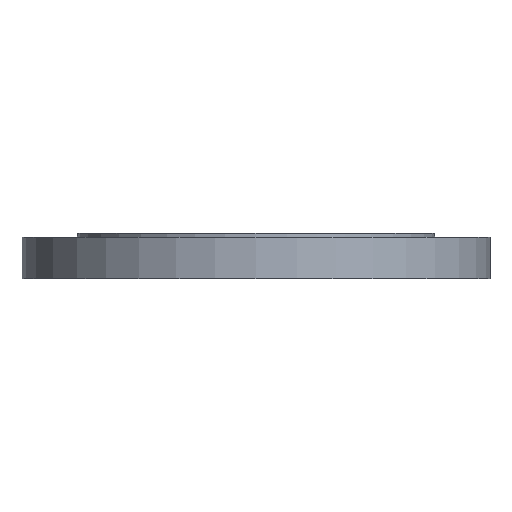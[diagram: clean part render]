
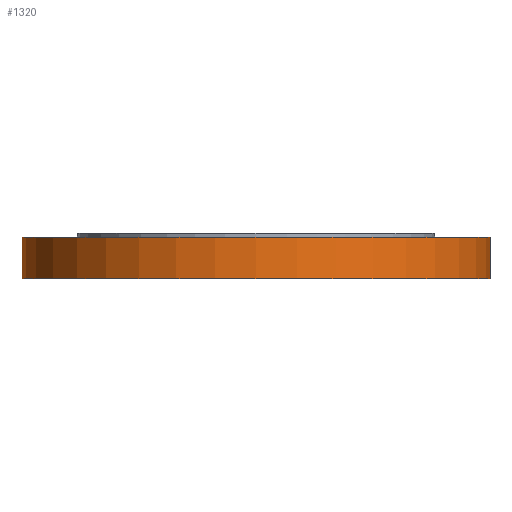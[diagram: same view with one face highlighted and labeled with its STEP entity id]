
A CAD part, front view. The second image highlights one B-rep face of the part: STEP entity #1320.
In plain terms, the highlighted cylindrical face has radius 342.5 mm (diameter 685 mm), a partial arc.
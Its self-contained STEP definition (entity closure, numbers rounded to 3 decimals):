
#18 = EDGE_CURVE ( 'NONE', #1235, #1653, #1180, .T. ) ;
#62 = CARTESIAN_POINT ( 'NONE',  ( 342.5, 0., -66. ) ) ;
#128 = CARTESIAN_POINT ( 'NONE',  ( -342.5, 0., -5.5 ) ) ;
#130 = CARTESIAN_POINT ( 'NONE',  ( 342.5, 0., -5.5 ) ) ;
#211 = DIRECTION ( 'NONE',  ( -1., 0., 0. ) ) ;
#212 = DIRECTION ( 'NONE',  ( 0., 0., -1. ) ) ;
#214 = CARTESIAN_POINT ( 'NONE',  ( 0., 0., -5.5 ) ) ;
#283 = EDGE_CURVE ( 'NONE', #1780, #1649, #1101, .T. ) ;
#380 = DIRECTION ( 'NONE',  ( 1., 0., 0. ) ) ;
#381 = VECTOR ( 'NONE', #1099, 1000. ) ;
#382 = DIRECTION ( 'NONE',  ( 0., 0., 1. ) ) ;
#383 = CARTESIAN_POINT ( 'NONE',  ( 0., 0., -150. ) ) ;
#386 = CYLINDRICAL_SURFACE ( 'NONE', #959, 342.5 ) ;
#387 = FACE_OUTER_BOUND ( 'NONE', #1557, .T. ) ;
#458 = CARTESIAN_POINT ( 'NONE',  ( -342.5, 0., -66. ) ) ;
#795 = DIRECTION ( 'NONE',  ( -1., 0., 0. ) ) ;
#796 = DIRECTION ( 'NONE',  ( 0., 0., -1. ) ) ;
#797 = CARTESIAN_POINT ( 'NONE',  ( 0., 0., -66. ) ) ;
#798 = EDGE_CURVE ( 'NONE', #1780, #1235, #1234, .T. ) ;
#876 = AXIS2_PLACEMENT_3D ( 'NONE', #214, #212, #211 ) ;
#959 = AXIS2_PLACEMENT_3D ( 'NONE', #383, #382, #380 ) ;
#1059 = VECTOR ( 'NONE', #1178, 1000. ) ;
#1099 = DIRECTION ( 'NONE',  ( 0., 0., 1. ) ) ;
#1100 = CARTESIAN_POINT ( 'NONE',  ( 342.5, 0., -150. ) ) ;
#1101 = LINE ( 'NONE', #1100, #381 ) ;
#1178 = DIRECTION ( 'NONE',  ( 0., 0., 1. ) ) ;
#1179 = CARTESIAN_POINT ( 'NONE',  ( -342.5, 0., -150. ) ) ;
#1180 = LINE ( 'NONE', #1179, #1059 ) ;
#1234 = CIRCLE ( 'NONE', #1504, 342.5 ) ;
#1235 = VERTEX_POINT ( 'NONE', #458 ) ;
#1320 = ADVANCED_FACE ( 'NONE', ( #387 ), #386, .T. ) ;
#1407 = ORIENTED_EDGE ( 'NONE', *, *, #1532, .T. ) ;
#1408 = ORIENTED_EDGE ( 'NONE', *, *, #283, .T. ) ;
#1409 = ORIENTED_EDGE ( 'NONE', *, *, #798, .F. ) ;
#1410 = ORIENTED_EDGE ( 'NONE', *, *, #18, .F. ) ;
#1504 = AXIS2_PLACEMENT_3D ( 'NONE', #797, #796, #795 ) ;
#1532 = EDGE_CURVE ( 'NONE', #1649, #1653, #1616, .T. ) ;
#1557 = EDGE_LOOP ( 'NONE', ( #1410, #1409, #1408, #1407 ) ) ;
#1616 = CIRCLE ( 'NONE', #876, 342.5 ) ;
#1649 = VERTEX_POINT ( 'NONE', #130 ) ;
#1653 = VERTEX_POINT ( 'NONE', #128 ) ;
#1780 = VERTEX_POINT ( 'NONE', #62 ) ;
